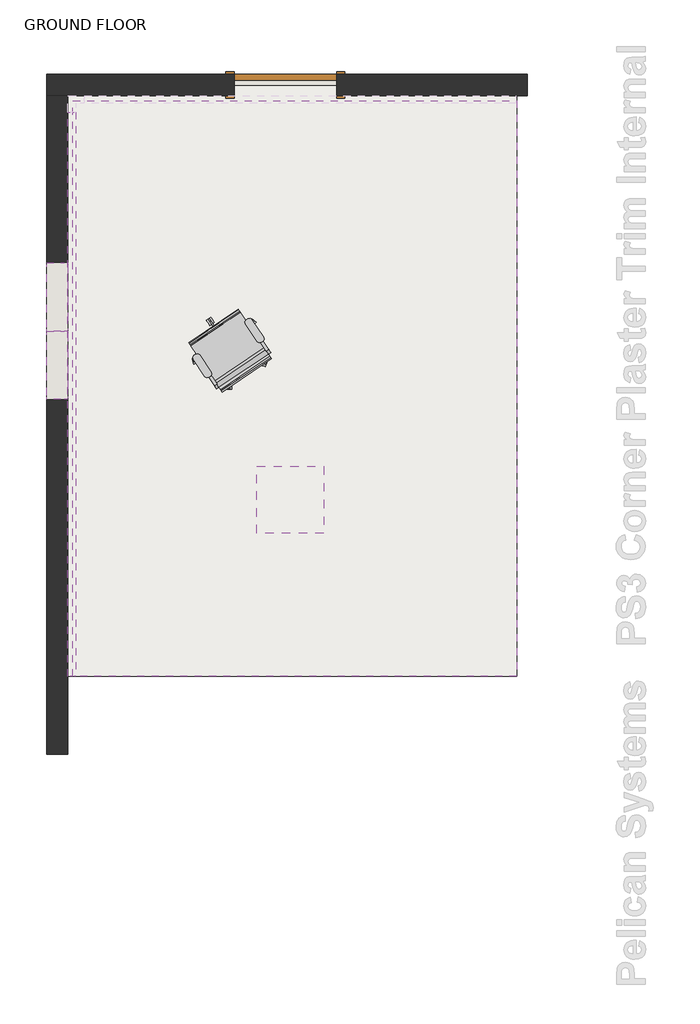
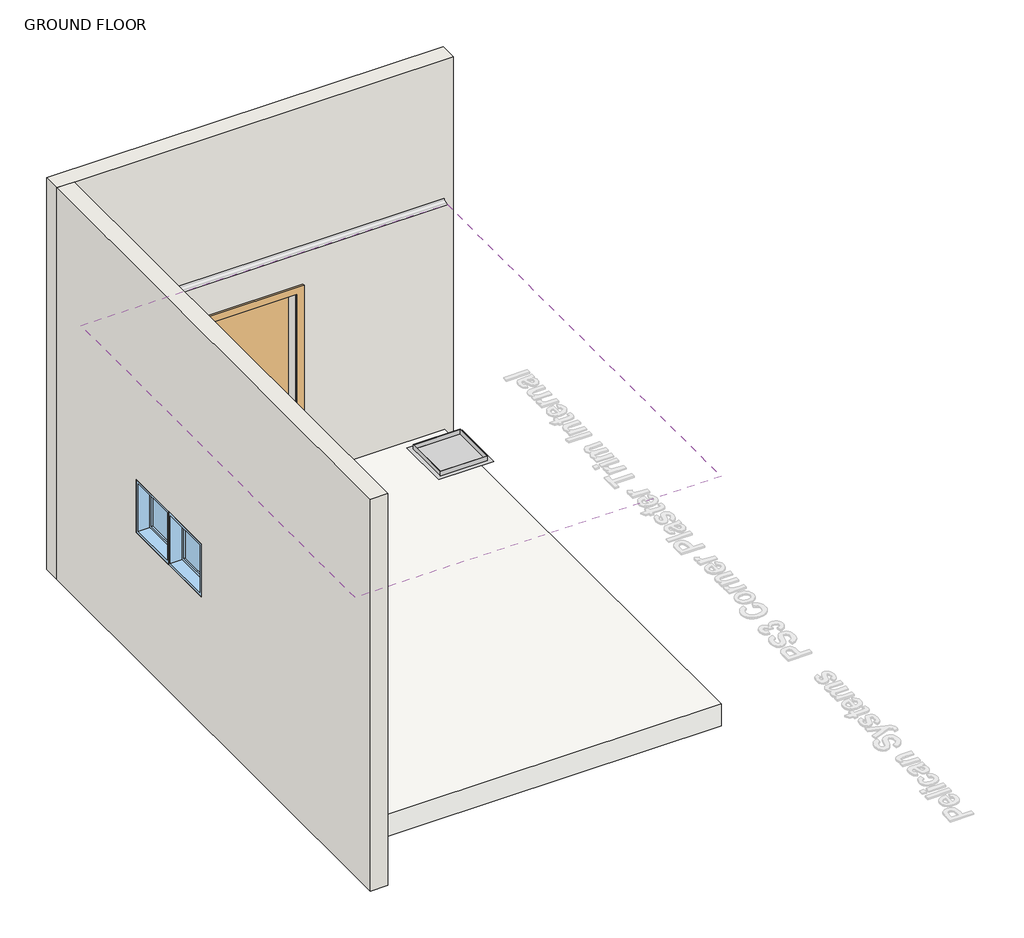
# One storey, part 1 of 2: 2 proxies, 2 walls, 2 windows, 1 covering, 1 door, 1 furniture element, 1 slab.
"""IFC4 building model written with IfcOpenShell, lengths in millimetres."""

from ifc_helpers import new_model, si_unit, frame, origin, place, context, project, spatial, polyline, outline, extrude, faceted_brep, transform, mapped, element, save
from components import m_single_flush_0915_x_2134mm_f5238887, chair_task_arms_chair_task_arms_3b363349, m_fixed_0610_x_0610mm_09852ef8

model = new_model("IFC4")

# Units and contexts
model_context = context("Model", 3, world=origin())
ifc_project = project(units=[si_unit("LENGTHUNIT", "METRE", prefix="MILLI")], contexts=[model_context])

# Site, building, storey
site = spatial("IfcSite", under=ifc_project)
building = spatial("IfcBuilding", under=site)
storey = spatial("IfcBuildingStorey", under=building, Name="GROUND FLOOR", Elevation=0.0)

# Proxies
placement = place(None, origin())
element("IfcBuildingElementProxy", 1, Name="Ceiling_Access_HatchPanel_Parametric : Top Hung", ObjectType="Ceiling_Access_HatchPanel_Parametric : Top Hung", at=placement, inside=storey, context=model_context, shape_type="SolidModel", body=[
    faceted_brep([(122182.6212716, 51249.9489557, 2665.0), (122182.6212716, 50739.2489557, 2665.0), (122693.3212716, 50739.2489557, 2665.0), (122693.3212716, 51249.9489557, 2665.0), (122188.9712716, 51243.5989557, 2665.0), (122686.9712716, 51243.5989557, 2665.0), (122686.9712716, 50745.5989557, 2665.0), (122188.9712716, 50745.5989557, 2665.0), (122182.6212716, 51249.9489557, 2615.0), (122693.3212716, 51249.9489557, 2615.0), (122693.3212716, 50739.2489557, 2615.0), (122182.6212716, 50739.2489557, 2615.0), (122188.9712716, 51243.5989557, 2615.0), (122188.9712716, 50745.5989557, 2615.0), (122686.9712716, 50745.5989557, 2615.0), (122686.9712716, 51243.5989557, 2615.0), (122182.6212716, 51249.9489557, 2626.0), (122182.6212716, 50739.2489557, 2626.0), (122693.3212716, 50739.2489557, 2626.0), (122693.3212716, 51249.9489557, 2626.0)], [[[0, 1, 2, 3], [4, 5, 6, 7]], [[8, 9, 10, 11], [12, 13, 14, 15]], [[5, 4, 12, 15]], [[6, 5, 15, 14]], [[7, 6, 14, 13]], [[4, 7, 13, 12]], [[1, 0, 16, 8, 11, 17]], [[2, 1, 17, 11, 10, 18]], [[3, 2, 18, 10, 9, 19]], [[0, 3, 19, 9, 8, 16]]]),
    extrude(outline(polyline([(122188.9712716, 51243.5989557), (122686.9712716, 51243.5989557), (122686.9712716, 50745.5989557), (122188.9712716, 50745.5989557), (122188.9712716, 51243.5989557)])), frame((0.0, 0.0, 2608.65), z_axis=(0.0, 0.0, 1.0), x_axis=(1.0, 0.0, 0.0)), (0.0, 0.0, 1.0), 6.35),
    faceted_brep([(122188.9712716, 51243.5989557, 2615.0), (122188.9712716, 51243.5989557, 2605.475), (122686.9712716, 51243.5989557, 2605.475), (122686.9712716, 51243.5989557, 2615.0), (122686.9712716, 50745.5989557, 2605.475), (122686.9712716, 50745.5989557, 2615.0), (122188.9712716, 50745.5989557, 2605.475), (122188.9712716, 50745.5989557, 2615.0), (122725.0712716, 51281.6989557, 2605.475), (122725.0712716, 50707.4989557, 2605.475), (122150.8712716, 50707.4989557, 2605.475), (122150.8712716, 51281.6989557, 2605.475), (122138.1712716, 51294.3989557, 2615.0), (122138.1712716, 50694.7989557, 2615.0), (122737.7712716, 50694.7989557, 2615.0), (122737.7712716, 51294.3989557, 2615.0)], [[[0, 1, 2, 3]], [[3, 2, 4, 5]], [[5, 4, 6, 7]], [[8, 9, 10, 11], [1, 6, 4, 2]], [[12, 13, 14, 15], [3, 5, 7, 0]], [[7, 6, 1, 0]], [[11, 12, 15, 8]], [[8, 15, 14, 9]], [[9, 14, 13, 10]], [[10, 13, 12, 11]]]),
])
element("IfcBuildingElementProxy", 2, Name="TR04 : Trims Pelican Systems Plaster Trim 45 x 20", ObjectType="TR04 : Trims Pelican Systems Plaster Trim 45 x 20", at=placement, inside=storey, context=model_context, shape_type="SweptSolid", body=[
    extrude(outline(polyline([(2656.0, 120442.7345529), (2635.0, 120442.7345529), (2635.0, 120487.7345529), (2615.0, 120487.7345529), (2615.0, 120488.7345529), (2626.0, 120488.7345529), (2626.0, 120512.7345529), (2627.0, 120512.7345529), (2627.0, 120488.7345529), (2636.0, 120488.7345529), (2636.0, 120443.7345529), (2656.0, 120443.7345529), (2656.0, 120442.7345529)])), frame((0.0, 49412.9193804, 0.0), z_axis=(0.0, 1.0, 0.0), x_axis=(0.0, 0.0, 1.0)), (0.0, 0.0, 1.0), 5055.0),
])

# Covering
element("IfcCovering", 3, ObjectType="_C2.3 - 12mm FLUSHPLASTER CEILING (UNDER CONCRETE SOFFIT)", at=placement, inside=storey, context=model_context, shape_type="SweptSolid", body=[
    extrude(outline(polyline([(120488.7345529, 54571.9193804), (124466.7345529, 54571.9193804), (124466.7345529, 49412.9193804), (120488.7345529, 49412.9193804), (120488.7345529, 54571.9193804)]), holes=[polyline([(122182.6212716, 51249.9489557), (122182.6212716, 50739.2489557), (122693.3212716, 50739.2489557), (122693.3212716, 51249.9489557), (122182.6212716, 51249.9489557)])]), frame((0.0, 0.0, 2615.0), z_axis=(0.0, 0.0, 1.0), x_axis=(1.0, 0.0, 0.0)), (0.0, 0.0, 1.0), 11.0),
])

# Door
m_single_flush_0915_x_2134mm_shape = m_single_flush_0915_x_2134mm_f5238887(model_context)
element("IfcDoor", 4, ObjectType="M_Single-Flush : 0915 x 2134mm", at=placement, inside=storey, context=model_context, shape_type="MappedRepresentation", body=[
    mapped(m_single_flush_0915_x_2134mm_shape, transform((122394.7345529, 54712.9193804, 0.0), x_axis=(1.0, 0.0, 0.0), y_axis=(0.0, 1.0, 0.0), z_axis=(0.0, 0.0, 1.0))),
])

# Furniture
chair_task_arms_chair_task_arms_shape = chair_task_arms_chair_task_arms_3b363349(model_context)
element("IfcFurniture", 5, ObjectType="Chair-Task Arms : Chair-Task Arms", at=placement, inside=storey, context=model_context, shape_type="MappedRepresentation", body=[
    mapped(chair_task_arms_chair_task_arms_shape, transform((121792.677586, 52236.7323612, 0.0), x_axis=(0.8290375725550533, 0.5591929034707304, 0.0), y_axis=(-0.5591929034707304, 0.8290375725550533, 0.0), z_axis=(0.0, 0.0, 1.0))),
])

# Slab
element("IfcSlab", 6, ObjectType="Generic Floor - 250mm", at=placement, inside=storey, context=model_context, shape_type="Brep", body=[
    faceted_brep([(120366.7345529, 54712.9193804, -250.0), (124466.7345529, 54712.9193804, -250.0), (124466.7345529, 54617.9193804, -250.0), (124466.7345529, 49412.9193804, -250.0), (120366.7345529, 49412.9193804, -250.0), (120366.7345529, 54617.9193804, -250.0), (120366.7345529, 54712.9193804, 0.0), (120366.7345529, 54617.9193804, 0.0), (120366.7345529, 49412.9193804, 0.0), (124466.7345529, 49412.9193804, 0.0), (124466.7345529, 54617.9193804, 0.0), (124466.7345529, 54712.9193804, 0.0), (122852.2345529, 54712.9193804, 0.0), (121937.2345529, 54712.9193804, 0.0)], [[[0, 1, 2, 3, 4, 5]], [[6, 7, 8, 9, 10, 11, 12, 13]], [[1, 0, 6, 13, 12, 11]], [[3, 2, 1, 11, 10, 9]], [[4, 3, 9, 8]], [[0, 5, 4, 8, 7, 6]]]),
])

# Walls
element("IfcWall", 7, ObjectType="190mm MAXI BLOCK- plastered", at=placement, inside=storey, context=model_context, shape_type="Brep", body=[
    faceted_brep([(124561.7345529, 54617.9193804, -250.0), (124561.7345529, 54617.9193804, 4250.0), (120442.7345529, 54617.9193804, 4250.0), (120252.7345529, 54617.9193804, 4250.0), (120252.7345529, 54617.9193804, -250.0), (120366.7345529, 54617.9193804, -250.0), (120366.7345529, 54617.9193804, 0.0), (121937.2345529, 54617.9193804, 0.0), (121937.2345529, 54617.9193804, 2134.0), (122852.2345529, 54617.9193804, 2134.0), (122852.2345529, 54617.9193804, 0.0), (124466.7345529, 54617.9193804, 0.0), (124466.7345529, 54617.9193804, -250.0), (124561.7345529, 54807.9193804, -250.0), (120252.7345529, 54807.9193804, -250.0), (120252.7345529, 54807.9193804, 4250.0), (124561.7345529, 54807.9193804, 4250.0), (121937.2345529, 54807.9193804, 0.0), (122852.2345529, 54807.9193804, 0.0), (122852.2345529, 54807.9193804, 2134.0), (121937.2345529, 54807.9193804, 2134.0), (124466.7345529, 54712.9193804, -250.0), (120366.7345529, 54712.9193804, -250.0), (121937.2345529, 54712.9193804, 0.0), (122852.2345529, 54712.9193804, 0.0), (120366.7345529, 54712.9193804, 0.0), (124466.7345529, 54712.9193804, 0.0)], [[[0, 1, 2, 3, 4, 5, 6, 7, 8, 9, 10, 11, 12]], [[13, 14, 15, 16], [17, 18, 19, 20]], [[14, 13, 0, 12, 21, 22, 5, 4]], [[1, 0, 13, 16]], [[3, 2, 1, 16, 15]], [[18, 17, 23, 24]], [[19, 18, 24, 10, 9]], [[20, 19, 9, 8]], [[17, 20, 8, 7, 23]], [[25, 23, 7, 6]], [[24, 26, 11, 10]], [[25, 22, 21, 26, 24, 23]], [[22, 25, 6, 5]], [[26, 21, 12, 11]], [[4, 3, 15, 14]]]),
])
element("IfcWall", 8, ObjectType="190mm MAXI BLOCK- plastered", at=placement, inside=storey, context=model_context, shape_type="SweptSolid", body=[
    extrude(outline(polyline([(54617.9193804, -250.0), (48712.9193804, -250.0), (48712.9193804, 4250.0), (54617.9193804, 4250.0), (54617.9193804, -250.0)]), holes=[polyline([(51897.9193804, 1200.0), (53117.9193804, 1200.0), (53117.9193804, 1810.0), (51897.9193804, 1810.0), (51897.9193804, 1200.0)])]), frame((120252.7345529, 0.0, 0.0), z_axis=(1.0, 0.0, 0.0), x_axis=(0.0, 1.0, 0.0)), (0.0, 0.0, 1.0), 190.0),
])

# Windows
m_fixed_0610_x_0610mm_shape = m_fixed_0610_x_0610mm_09852ef8(model_context)
element("IfcWindow", 9, ObjectType="M_Fixed : 0610 x 0610mm", at=placement, inside=storey, context=model_context, shape_type="MappedRepresentation", body=[
    mapped(m_fixed_0610_x_0610mm_shape, transform((120334.7345529, 52812.9193804, 285.0), x_axis=(0.0, -1.0, 0.0), y_axis=(1.0, 0.0, 0.0), z_axis=(0.0, 0.0, 1.0))),
])
element("IfcWindow", 10, ObjectType="M_Fixed : 0610 x 0610mm", at=placement, inside=storey, context=model_context, shape_type="MappedRepresentation", body=[
    mapped(m_fixed_0610_x_0610mm_shape, transform((120334.7345529, 52202.9193804, 285.0), x_axis=(0.0, -1.0, 0.0), y_axis=(1.0, 0.0, 0.0), z_axis=(0.0, 0.0, 1.0))),
])

save(model, "model.ifc")
